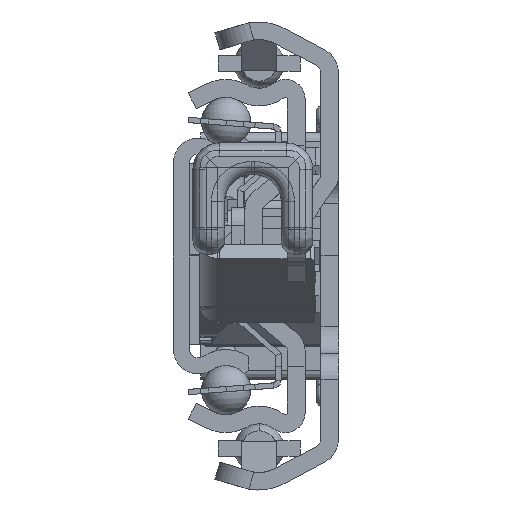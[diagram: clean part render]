
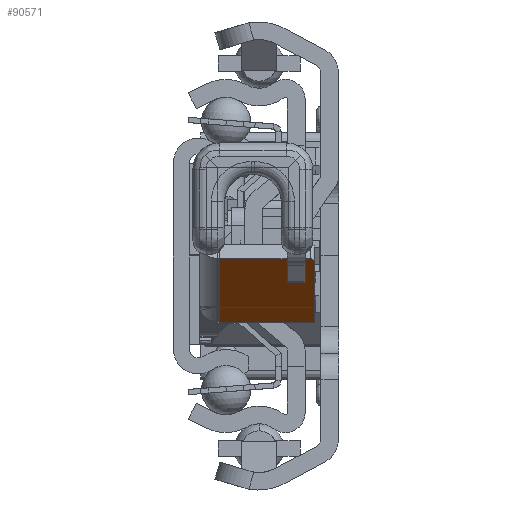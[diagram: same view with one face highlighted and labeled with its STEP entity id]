
A CAD part, left-side view. The second image highlights one B-rep face of the part: STEP entity #90571.
In plain terms, the highlighted planar face has unit normal (-0.597, 0, -0.802) as drawn and (-0.597, -0.802, 0) by its records, which use the part's own axes.
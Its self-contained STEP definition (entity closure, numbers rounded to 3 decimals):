
#89984=DIRECTION('',(0.802,-0.597,0.));
#89985=VECTOR('',#89984,12.);
#89986=CARTESIAN_POINT('',(31.957,-10.314,2.2));
#89987=LINE('',#89986,#89985);
#90012=CARTESIAN_POINT('',(32.358,-10.613,12.5));
#90013=DIRECTION('',(-0.597,-0.802,0.));
#90014=DIRECTION('',(0.,0.,1.));
#90015=AXIS2_PLACEMENT_3D('',#90012,#90013,#90014);
#90017=DIRECTION('',(-0.802,0.597,0.));
#90018=VECTOR('',#90017,11.5);
#90019=CARTESIAN_POINT('',(41.586,-17.476,13.));
#90020=LINE('',#90019,#90018);
#90021=DIRECTION('',(0.,0.,1.));
#90022=VECTOR('',#90021,10.8);
#90023=CARTESIAN_POINT('',(41.586,-17.476,2.2));
#90024=LINE('',#90023,#90022);
#90025=DIRECTION('',(0.,0.,-1.));
#90026=VECTOR('',#90025,10.3);
#90027=CARTESIAN_POINT('',(31.957,-10.314,12.5));
#90028=LINE('',#90027,#90026);
#90232=CARTESIAN_POINT('',(41.586,-17.476,2.2));
#90233=CARTESIAN_POINT('',(41.586,-17.476,13.));
#90234=VERTEX_POINT('',#90232);
#90235=VERTEX_POINT('',#90233);
#90236=CARTESIAN_POINT('',(31.957,-10.314,2.2));
#90237=VERTEX_POINT('',#90236);
#90268=CARTESIAN_POINT('',(32.358,-10.613,13.));
#90269=CARTESIAN_POINT('',(31.957,-10.314,12.5));
#90270=VERTEX_POINT('',#90268);
#90271=VERTEX_POINT('',#90269);
#90555=CARTESIAN_POINT('',(34.726,-12.374,0.));
#90556=DIRECTION('',(-0.597,-0.802,0.));
#90557=DIRECTION('',(0.802,-0.597,0.));
#90558=AXIS2_PLACEMENT_3D('',#90555,#90556,#90557);
#90559=PLANE('',#90558);
#90561=ORIENTED_EDGE('',*,*,#90560,.F.);
#90563=ORIENTED_EDGE('',*,*,#90562,.F.);
#90565=ORIENTED_EDGE('',*,*,#90564,.F.);
#90566=ORIENTED_EDGE('',*,*,#90542,.F.);
#90568=ORIENTED_EDGE('',*,*,#90567,.F.);
#90569=EDGE_LOOP('',(#90561,#90563,#90565,#90566,#90568));
#90570=FACE_OUTER_BOUND('',#90569,.F.);
#90016=CIRCLE('',#90015,0.5);
#90542=EDGE_CURVE('',#90237,#90234,#89987,.T.);
#90560=EDGE_CURVE('',#90270,#90271,#90016,.T.);
#90562=EDGE_CURVE('',#90235,#90270,#90020,.T.);
#90564=EDGE_CURVE('',#90234,#90235,#90024,.T.);
#90567=EDGE_CURVE('',#90271,#90237,#90028,.T.);
#90571=ADVANCED_FACE('',(#90570),#90559,.T.);
